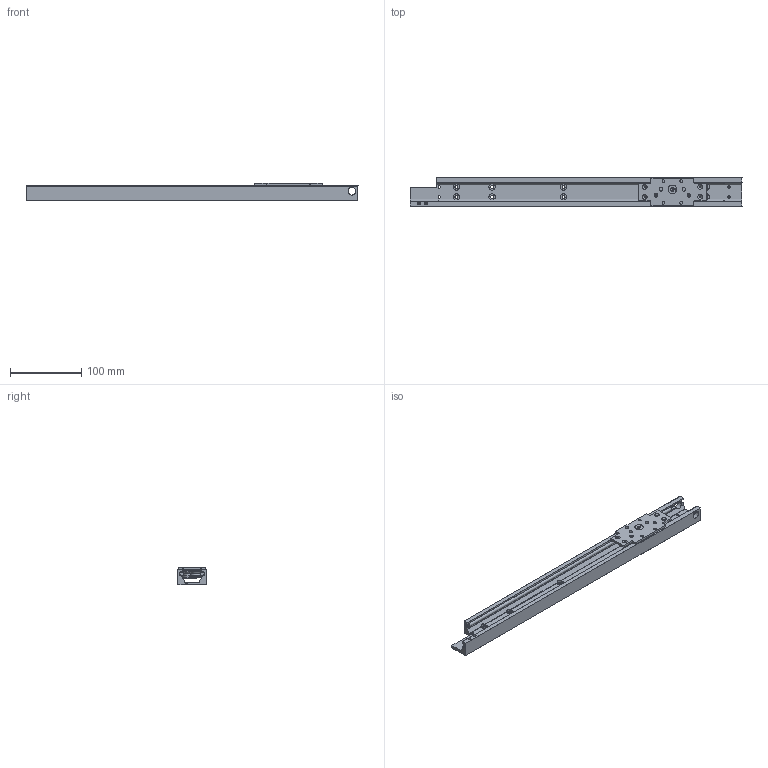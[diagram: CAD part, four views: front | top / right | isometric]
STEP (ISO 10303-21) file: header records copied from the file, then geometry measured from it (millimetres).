
FILE_DESCRIPTION((''),'1');
FILE_NAME('H:/図庫/国内ﾕﾆｯﾄ/ﾌﾙﾗｲﾄﾞ/ホームページ用ＣＡＤ図面/最新/3D/40SW0465S_HP.stp','2016-11-30T07:46:48',(''),(''),'Spatial Interop R21 SP3','Kubotek KeyCreator 2011 V10.0.2 (22737)',' ');
FILE_SCHEMA(('automotive_design'));
Length unit declared in the file: millimetre
Products named in the file (169): Unnamed[1]
Bounding box: 465 x 40 x 25.03 mm (x, y, z)
Surface area: 101276.2 mm2 (no closed solid volume)
Topology: 0 solids, 326 shells, 326 faces, 1483 edges, 1374 vertices
Faces by surface type: cylinder 148, plane 116, cone 37, bspline 19, torus 6
Full cylindrical faces by diameter (mm): 3 x3, 3.1 x4, 3.3 x2, 3.5 x4, 4 x4, 4.2 x8, 5 x5, 6 x4, 6.03 x2, 7 x3, 7.8 x3, 9 x8, 10 x3, 11 x4, 13 x1, 17 x4, 19.9 x2
Entity records: 25753 total; most frequent: CARTESIAN_POINT 6152, DIRECTION 2586, ORIENTED_EDGE 1358, EDGE_CURVE 1358, VERTEX_POINT 1358, AXIS2_PLACEMENT_3D 1100, PRESENTATION_STYLE_ASSIGNMENT 990, COLOUR_RGB 990
